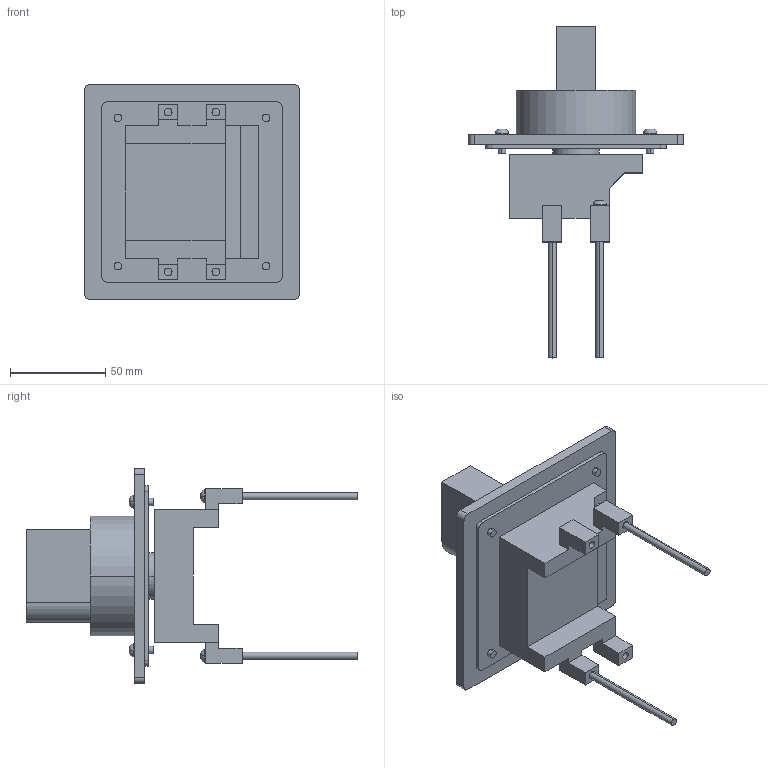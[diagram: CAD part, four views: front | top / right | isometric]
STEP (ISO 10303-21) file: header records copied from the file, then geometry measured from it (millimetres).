
FILE_DESCRIPTION( ( '' ), '1' );
FILE_NAME( 'E:/D&C電子外形図_3D/step/distribution/g-twin/breaker_accessory/handle/BZ6V10D.stp', '2012-10-19T07:55:53', ( '' ), ( '' ), ' ', ' ', ' ' );
FILE_SCHEMA( ( 'automotive_design' ) );
Length unit declared in the file: millimetre
Products named in the file (10): 1; 2; 3; 4; 5; 6; 7; 8; 9; 10
Bounding box: 113 x 174.6 x 113 mm (x, y, z)
Volume: 289073.2 mm3; surface area: 83974.6 mm2
Topology: 10 solids, 10 shells, 155 faces, 383 edges, 256 vertices
Faces by surface type: plane 76, cylinder 67, torus 12
Entity records: 9396 total; most frequent: DIRECTION 894, STYLED_ITEM 804, PRESENTATION_STYLE_ASSIGNMENT 804, CARTESIAN_POINT 804, COLOUR_RGB 804, ORIENTED_EDGE 766, EDGE_CURVE 383, CURVE_STYLE 383
